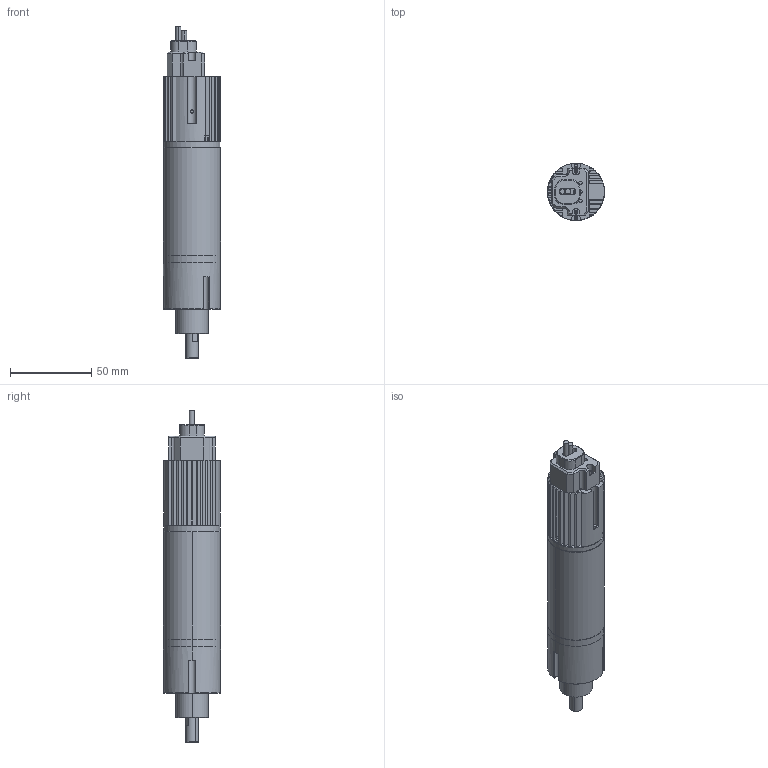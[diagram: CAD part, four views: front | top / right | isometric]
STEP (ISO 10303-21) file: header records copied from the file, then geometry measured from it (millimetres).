
FILE_DESCRIPTION (( 'STEP AP203' ), '1' );
FILE_NAME ('CBL35C-025-YY-Z_B.STEP', '2017-03-30T15:23:52', ( '' ), ( '' ), 'SwSTEP 2.0', 'SolidWorks 2016', '' );
FILE_SCHEMA (( 'CONFIG_CONTROL_DESIGN' ));
Length unit declared in the file: millimetre
Products named in the file (11): 63604-00_A; 21564-07_A; 23640-01_C; 14714-02_A; CBC35-CABLE; 14714-25_b; 23642-01_C; CBL35C-025-YY-Z_B; GROUMET; 18568-01_14; 14714-04_C
Assembly tree (10 placements, depth 2):
  CBL35C-025-YY-Z_B
    23640-01_C
    23642-01_C
    14714-02_A
    14714-04_C
    18568-01_14
    21564-07_A
    63604-00_A
    GROUMET
    CBC35-CABLE
    14714-25_b
Bounding box: 35 x 35 x 203.8 mm (x, y, z)
Volume: 85859.8 mm3; surface area: 59024.3 mm2
Topology: 11 solids, 11 shells, 585 faces, 1535 edges, 955 vertices
Faces by surface type: cylinder 241, plane 213, cone 117, torus 10, bspline 4
Entity records: 19839 total; most frequent: CARTESIAN_POINT 4014, DIRECTION 3212, ORIENTED_EDGE 2982, EDGE_CURVE 1491, AXIS2_PLACEMENT_3D 1199, VERTEX_POINT 955, VECTOR 814, LINE 814
